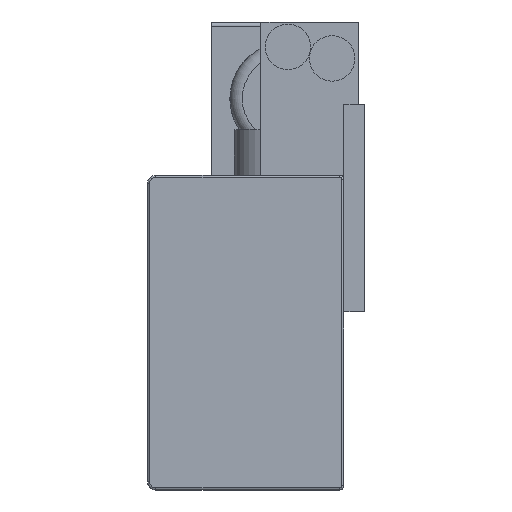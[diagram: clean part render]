
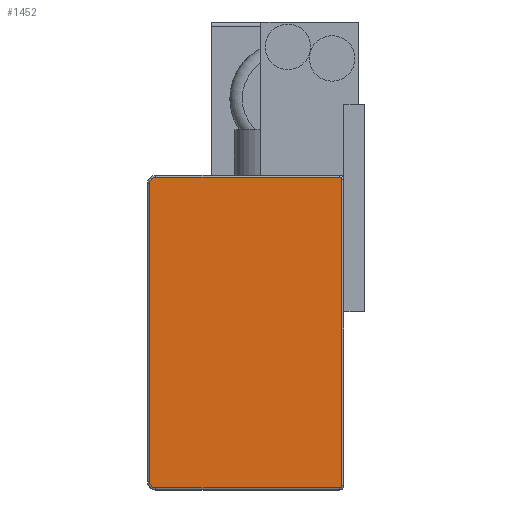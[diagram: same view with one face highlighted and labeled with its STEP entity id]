
A CAD part, left-side view. The second image highlights one B-rep face of the part: STEP entity #1452.
In plain terms, the highlighted planar face has unit normal (-1, 0, 0).
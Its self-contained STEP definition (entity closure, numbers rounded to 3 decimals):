
#46=PLANE('',#1597);
#98=CIRCLE('',#1555,0.5);
#104=CIRCLE('',#1564,0.5);
#123=CIRCLE('',#1598,1.5);
#124=CIRCLE('',#1599,1.5);
#306=ORIENTED_EDGE('',*,*,#677,.T.);
#307=ORIENTED_EDGE('',*,*,#623,.T.);
#308=ORIENTED_EDGE('',*,*,#632,.T.);
#309=ORIENTED_EDGE('',*,*,#627,.T.);
#310=ORIENTED_EDGE('',*,*,#621,.T.);
#311=ORIENTED_EDGE('',*,*,#619,.T.);
#312=ORIENTED_EDGE('',*,*,#678,.T.);
#313=ORIENTED_EDGE('',*,*,#679,.T.);
#619=EDGE_CURVE('',#812,#811,#938,.T.);
#621=EDGE_CURVE('',#813,#812,#98,.T.);
#623=EDGE_CURVE('',#814,#815,#939,.T.);
#627=EDGE_CURVE('',#818,#813,#941,.T.);
#632=EDGE_CURVE('',#815,#818,#104,.T.);
#677=EDGE_CURVE('',#851,#814,#123,.T.);
#678=EDGE_CURVE('',#811,#852,#124,.T.);
#679=EDGE_CURVE('',#852,#851,#969,.F.);
#811=VERTEX_POINT('',#2251);
#812=VERTEX_POINT('',#2253);
#813=VERTEX_POINT('',#2257);
#814=VERTEX_POINT('',#2261);
#815=VERTEX_POINT('',#2262);
#818=VERTEX_POINT('',#2270);
#851=VERTEX_POINT('',#2368);
#852=VERTEX_POINT('',#2370);
#938=LINE('',#2252,#1076);
#939=LINE('',#2260,#1077);
#941=LINE('',#2269,#1079);
#969=LINE('',#2371,#1107);
#1076=VECTOR('',#1794,1000.);
#1077=VECTOR('',#1805,1000.);
#1079=VECTOR('',#1813,1000.);
#1107=VECTOR('',#1919,1000.);
#1217=EDGE_LOOP('',(#306,#307,#308,#309,#310,#311,#312,#313));
#1323=FACE_BOUND('',#1217,.T.);
#1452=ADVANCED_FACE('',(#1323),#46,.T.);
#1555=AXIS2_PLACEMENT_3D('',#2256,#1799,#1800);
#1564=AXIS2_PLACEMENT_3D('',#2277,#1822,#1823);
#1597=AXIS2_PLACEMENT_3D('',#2366,#1913,#1914);
#1598=AXIS2_PLACEMENT_3D('',#2367,#1915,#1916);
#1599=AXIS2_PLACEMENT_3D('',#2369,#1917,#1918);
#1794=DIRECTION('',(0.,1.,0.));
#1799=DIRECTION('',(-1.,0.,0.));
#1800=DIRECTION('',(0.,0.,1.));
#1805=DIRECTION('',(0.,-1.,0.));
#1813=DIRECTION('',(0.,0.,1.));
#1822=DIRECTION('',(-1.,0.,0.));
#1823=DIRECTION('',(0.,0.,1.));
#1913=DIRECTION('',(-1.,0.,0.));
#1914=DIRECTION('',(0.,0.,1.));
#1915=DIRECTION('',(-1.,0.,0.));
#1916=DIRECTION('',(0.,0.,1.));
#1917=DIRECTION('',(-1.,0.,0.));
#1918=DIRECTION('',(0.,0.,1.));
#1919=DIRECTION('',(0.,0.,1.));
#2251=CARTESIAN_POINT('',(-164.5,45.4,37.5));
#2252=CARTESIAN_POINT('',(-164.5,34.,37.5));
#2253=CARTESIAN_POINT('',(-164.5,1.,37.5));
#2256=CARTESIAN_POINT('',(-164.5,1.,37.));
#2257=CARTESIAN_POINT('',(-164.5,0.5,37.));
#2260=CARTESIAN_POINT('',(-164.5,34.,-37.5));
#2261=CARTESIAN_POINT('',(-164.5,45.4,-37.5));
#2262=CARTESIAN_POINT('',(-164.5,1.,-37.5));
#2269=CARTESIAN_POINT('',(-164.5,0.5,38.));
#2270=CARTESIAN_POINT('',(-164.5,0.5,-37.));
#2277=CARTESIAN_POINT('',(-164.5,1.,-37.));
#2366=CARTESIAN_POINT('',(-164.5,34.,38.));
#2367=CARTESIAN_POINT('',(-164.5,45.4,-36.));
#2368=CARTESIAN_POINT('',(-164.5,46.9,-36.));
#2369=CARTESIAN_POINT('',(-164.5,45.4,36.));
#2370=CARTESIAN_POINT('',(-164.5,46.9,36.));
#2371=CARTESIAN_POINT('',(-164.5,46.9,38.));
